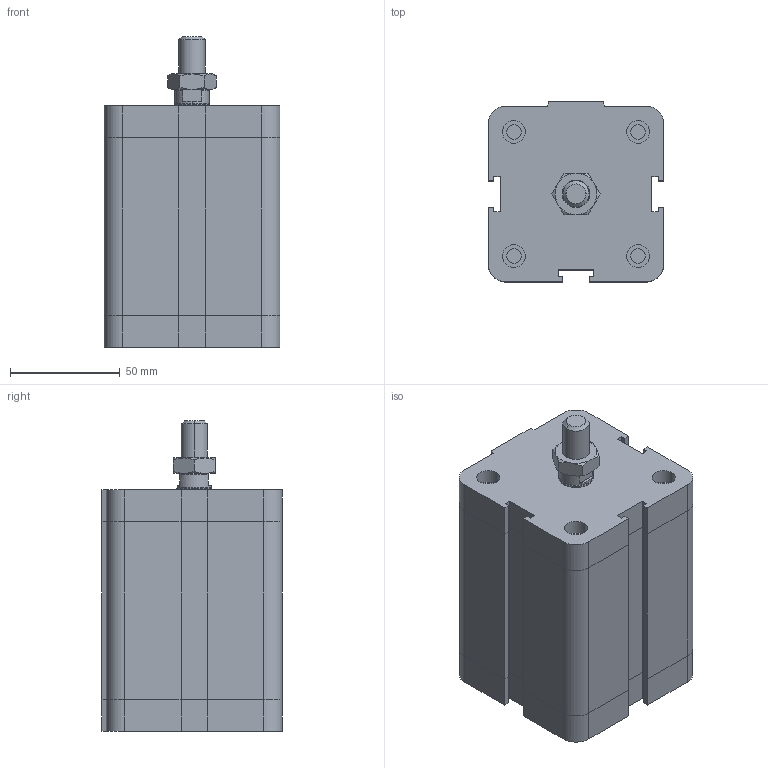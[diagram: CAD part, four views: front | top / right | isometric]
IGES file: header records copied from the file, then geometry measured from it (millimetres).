
Global section: file name: No Iges File Name specified; native system: Autodesk Inventor 2009; preprocessor: AutoDesk Inventor Iges Exporter R2009; author: rivolro1; date: 20081219.160608; units: millimetre
Bounding box: 80 x 82 x 141.5 mm (x, y, z)
Volume: 673685.6 mm3; surface area: 67767.9 mm2
Topology: 3 solids, 3 shells, 216 faces, 472 edges, 282 vertices
Faces by surface type: plane 121, bspline 37, cylinder 20, cone 20, revolution 18
